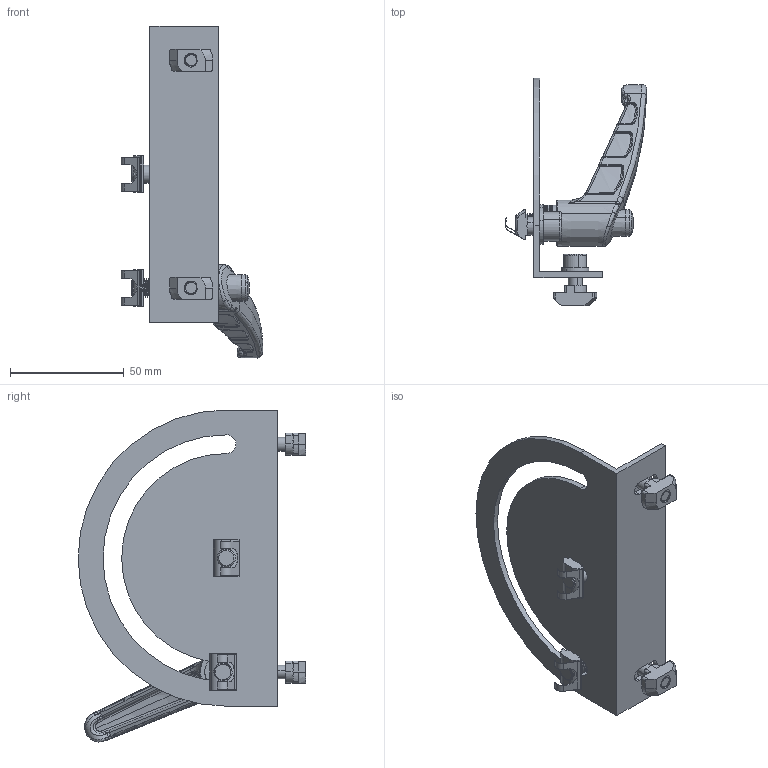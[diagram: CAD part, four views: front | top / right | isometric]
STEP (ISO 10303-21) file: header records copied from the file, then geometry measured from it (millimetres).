
FILE_DESCRIPTION (( 'STEP AP203' ), '1' );
FILE_NAME ('415010_Schwenkbefestigung-Satz Nut 8-8 (B) - 8-10 (B).step', '2022-06-24T06:38:26', ( '' ), ( '' ), 'SwSTEP 2.0', 'SolidWorks 2021', '' );
FILE_SCHEMA (( 'CONFIG_CONTROL_DESIGN' ));
Length unit declared in the file: millimetre
Products named in the file (9): 415010_Schwenkbefestigung-Satz Nut 8-8 (B) - 8-10 (B); 370500 Klemmhebel M8x12 mit Ausrastknopf; DIN 912 M8 x 12 --- 12C_DIN 912 M8 x 12 --- 12C; 342030 Hammermutter Nut 10 M6; DIN 912 M6 x 16 --- 16C_DIN 912 M6 x 16 --- 16C; 331060 Nutenstein Nut 8 M8 einschwenkbar mit Federblech; 999233 Schwenkbefestigung Nut 8-10; Washer DIN 125 - A 6.4_Washer DIN 125 - A 6.4; Washer DIN 125 - A 8.4_Washer DIN 125 - A 8.4
Assembly tree (13 placements, depth 2):
  415010_Schwenkbefestigung-Satz Nut 8-8 (B) - 8-10 (B)
    999233 Schwenkbefestigung Nut 8-10
    DIN 912 M8 x 12 --- 12C_DIN 912 M8 x 12 --- 12C
    Washer DIN 125 - A 8.4_Washer DIN 125 - A 8.4  x2
    Washer DIN 125 - A 6.4_Washer DIN 125 - A 6.4  x2
    331060 Nutenstein Nut 8 M8 einschwenkbar mit Federblech  x2
    370500 Klemmhebel M8x12 mit Ausrastknopf
    342030 Hammermutter Nut 10 M6  x2
    DIN 912 M6 x 16 --- 16C_DIN 912 M6 x 16 --- 16C  x2
Bounding box: 62.1 x 99.9 x 145.69 mm (x, y, z)
Volume: 52179.1 mm3; surface area: 44323.1 mm2
Topology: 16 solids, 16 shells, 1524 faces, 4118 edges, 2624 vertices
Faces by surface type: cylinder 624, plane 589, bspline 176, cone 123, torus 12
Entity records: 57428 total; most frequent: CARTESIAN_POINT 25637, ORIENTED_EDGE 7324, DIRECTION 5207, EDGE_CURVE 3662, VERTEX_POINT 2336, AXIS2_PLACEMENT_3D 1904, B_SPLINE_CURVE_WITH_KNOTS 1431, VECTOR 1399
